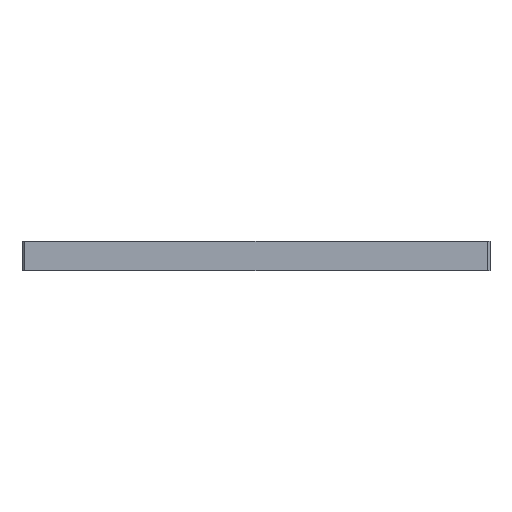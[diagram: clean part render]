
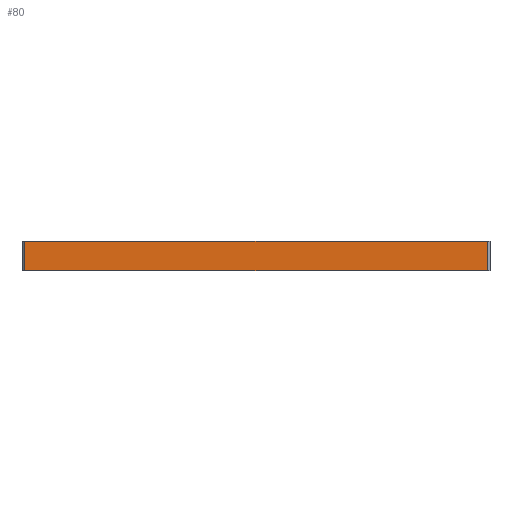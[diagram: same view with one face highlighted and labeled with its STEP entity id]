
A CAD part, front view. The second image highlights one B-rep face of the part: STEP entity #80.
In plain terms, the highlighted planar face has unit normal (0, -1, 0).
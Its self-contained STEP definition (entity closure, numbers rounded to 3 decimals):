
#80=ADVANCED_FACE('',(#220),#219,.T.);
#219=PLANE('',#949);
#220=FACE_OUTER_BOUND('',#950,.T.);
#946=CARTESIAN_POINT('',(-89.,-80.,1.));
#947=DIRECTION('',(0.,-1.,0.));
#948=DIRECTION('',(0.,0.,-1.));
#949=AXIS2_PLACEMENT_3D('',#946,#947,#948);
#950=EDGE_LOOP('',(#1371,#1372,#1373,#1374));
#1371=ORIENTED_EDGE('',*,*,#1697,.F.);
#1372=ORIENTED_EDGE('',*,*,#1749,.F.);
#1373=ORIENTED_EDGE('',*,*,#1750,.T.);
#1374=ORIENTED_EDGE('',*,*,#1746,.T.);
#1697=EDGE_CURVE('',#1964,#1943,#1971,.T.);
#1746=EDGE_CURVE('',#2313,#1943,#2314,.T.);
#1749=EDGE_CURVE('',#2333,#1964,#2334,.T.);
#1750=EDGE_CURVE('',#2333,#2313,#2340,.T.);
#1943=VERTEX_POINT('',#3193);
#1964=VERTEX_POINT('',#3205);
#1971=LINE('',#3209,#3210);
#2313=VERTEX_POINT('',#3452);
#2314=LINE('',#3453,#3454);
#2333=VERTEX_POINT('',#3463);
#2334=LINE('',#3464,#3465);
#2340=LINE('',#3467,#3468);
#3193=CARTESIAN_POINT('',(79.,-80.,0.));
#3205=CARTESIAN_POINT('',(-79.,-80.,0.));
#3209=CARTESIAN_POINT('',(-79.,-80.,0.));
#3210=VECTOR('',#3211,158.);
#3211=DIRECTION('',(1.,0.,0.));
#3452=CARTESIAN_POINT('',(79.,-80.,-10.));
#3453=CARTESIAN_POINT('',(79.,-80.,-10.));
#3454=VECTOR('',#3455,10.);
#3455=DIRECTION('',(0.,0.,1.));
#3463=CARTESIAN_POINT('',(-79.,-80.,-10.));
#3464=CARTESIAN_POINT('',(-79.,-80.,-10.));
#3465=VECTOR('',#3466,10.);
#3466=DIRECTION('',(0.,0.,1.));
#3467=CARTESIAN_POINT('',(-79.,-80.,-10.));
#3468=VECTOR('',#3469,158.);
#3469=DIRECTION('',(1.,0.,0.));
